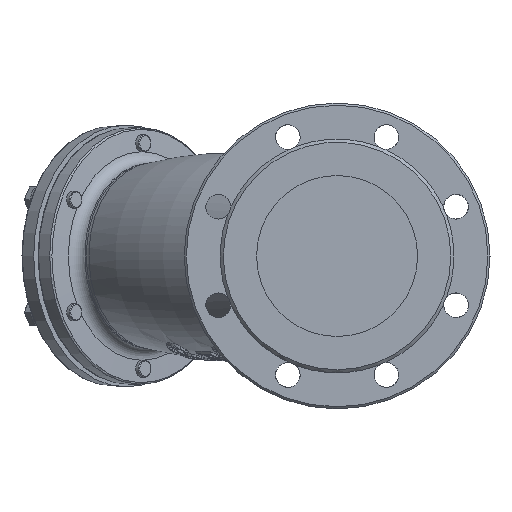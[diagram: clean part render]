
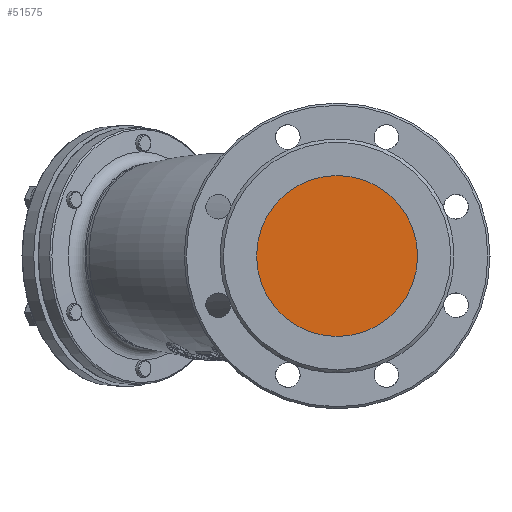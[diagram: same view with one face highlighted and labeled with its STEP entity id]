
A CAD part, left-side view. The second image highlights one B-rep face of the part: STEP entity #51575.
In plain terms, the highlighted planar face has unit normal (-1, 0, 0).
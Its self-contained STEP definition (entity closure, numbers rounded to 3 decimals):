
#6592 = DIRECTION ( 'NONE',  ( 0., 1., 0. ) ) ;
#7872 = CIRCLE ( 'NONE', #49528, 75. ) ;
#12028 = DIRECTION ( 'NONE',  ( 0., 0., -1. ) ) ;
#12178 = CARTESIAN_POINT ( 'NONE',  ( -233.621, -71.549, 0. ) ) ;
#17788 = PLANE ( 'NONE',  #69546 ) ;
#21232 = CARTESIAN_POINT ( 'NONE',  ( -233.621, -71.549, -75. ) ) ;
#34806 = ORIENTED_EDGE ( 'NONE', *, *, #40882, .T. ) ;
#40882 = EDGE_CURVE ( 'NONE', #72252, #72252, #7872, .T. ) ;
#44919 = EDGE_LOOP ( 'NONE', ( #34806 ) ) ;
#49528 = AXIS2_PLACEMENT_3D ( 'NONE', #62702, #53634, #12028 ) ;
#51575 = ADVANCED_FACE ( 'NONE', ( #52388 ), #17788, .F. ) ;
#52388 = FACE_OUTER_BOUND ( 'NONE', #44919, .T. ) ;
#53634 = DIRECTION ( 'NONE',  ( -1., 0., 0. ) ) ;
#57589 = DIRECTION ( 'NONE',  ( 1., 0., 0. ) ) ;
#62702 = CARTESIAN_POINT ( 'NONE',  ( -233.621, -71.549, 0. ) ) ;
#69546 = AXIS2_PLACEMENT_3D ( 'NONE', #12178, #57589, #6592 ) ;
#72252 = VERTEX_POINT ( 'NONE', #21232 ) ;
